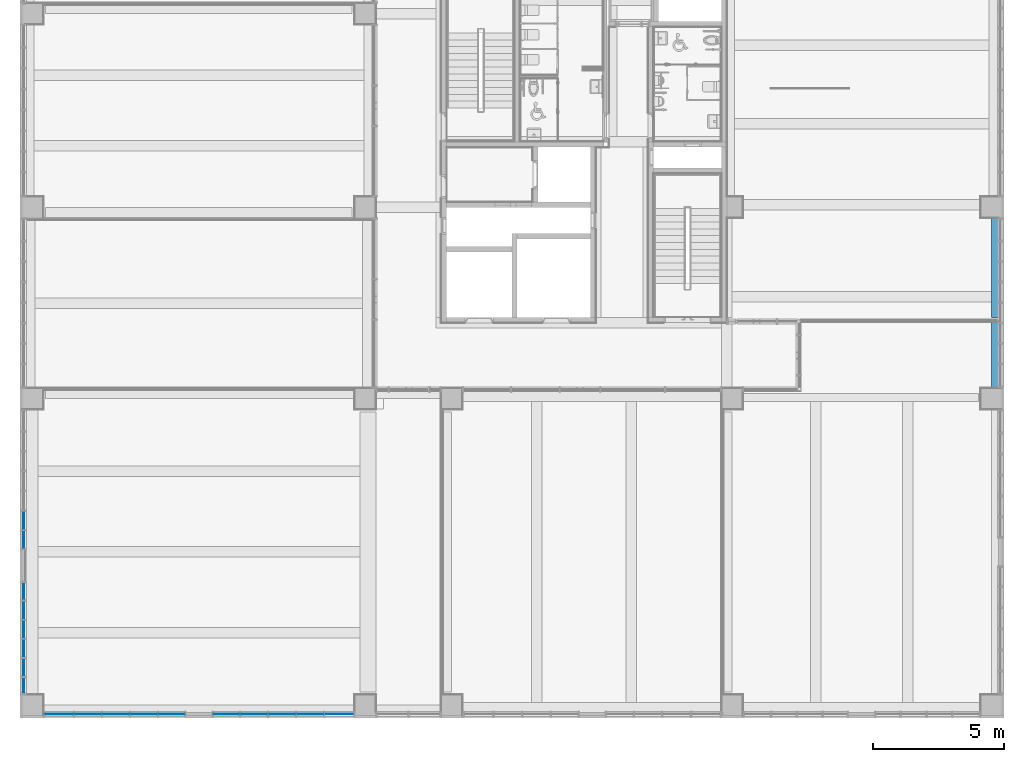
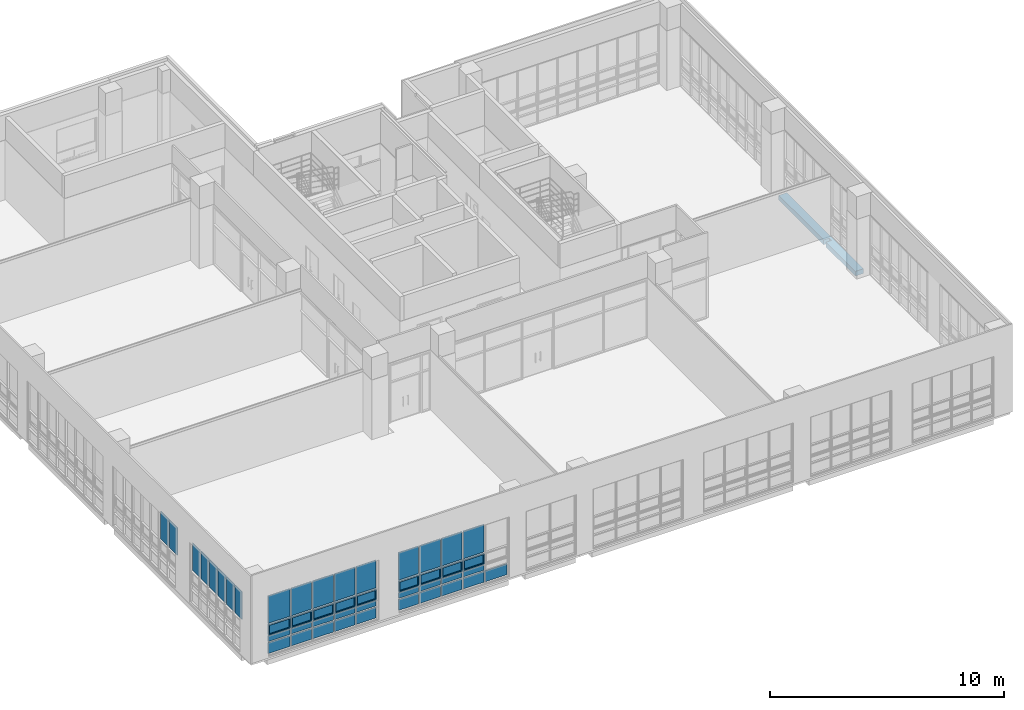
# One storey, part 30 of 74: 45 plates, 1 beam, 4 elements without a shape of their own.
"""IFC2X3 building model written with IfcOpenShell, lengths in millimetres."""

from ifc_helpers import new_model, entity, si_unit, converted_unit, derived_unit, direction, frame, origin, origin_2d_with_axis, place, context, subcontext, project, spatial, polyline, rectangle, outline, extrude, faceted_brep, source, transform, mapped, material, material_list, type_object, type_shapes, element, aggregate, save


model = new_model("IFC2X3")

# Units and contexts
model_context = context("Model", 3, precision=0.01, world=origin(), true_north=direction((6.123031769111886e-17, 1.0)))
body_context = subcontext(model_context, "Body", "Model", "MODEL_VIEW")
ifc_project = project(units=[si_unit("LENGTHUNIT", "METRE", prefix="MILLI"), si_unit("AREAUNIT", "SQUARE_METRE"), si_unit("VOLUMEUNIT", "CUBIC_METRE"), converted_unit("PLANEANGLEUNIT", "DEGREE", entity("IfcRatioMeasure", 0.017453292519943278), si_unit("PLANEANGLEUNIT", "RADIAN"), dimensions=[0, 0, 0, 0, 0, 0, 0]), si_unit("MASSUNIT", "GRAM", prefix="KILO"), derived_unit("MASSDENSITYUNIT", [(si_unit("MASSUNIT", "GRAM", prefix="KILO"), 1), (si_unit("LENGTHUNIT", "METRE"), -3)]), derived_unit("MOMENTOFINERTIAUNIT", [(si_unit("LENGTHUNIT", "METRE"), 4)]), si_unit("TIMEUNIT", "SECOND"), si_unit("FREQUENCYUNIT", "HERTZ"), si_unit("THERMODYNAMICTEMPERATUREUNIT", "DEGREE_CELSIUS"), derived_unit("THERMALTRANSMITTANCEUNIT", [(si_unit("MASSUNIT", "GRAM", prefix="KILO"), 1), (si_unit("THERMODYNAMICTEMPERATUREUNIT", "KELVIN"), -1), (si_unit("TIMEUNIT", "SECOND"), -3)]), derived_unit("VOLUMETRICFLOWRATEUNIT", [(si_unit("LENGTHUNIT", "METRE"), 3), (si_unit("TIMEUNIT", "SECOND"), -1)]), derived_unit("MASSFLOWRATEUNIT", [(si_unit("MASSUNIT", "GRAM", prefix="KILO"), 1), (si_unit("TIMEUNIT", "SECOND"), -1)]), derived_unit("ROTATIONALFREQUENCYUNIT", [(si_unit("TIMEUNIT", "SECOND"), -1)]), si_unit("ELECTRICCURRENTUNIT", "AMPERE"), si_unit("ELECTRICVOLTAGEUNIT", "VOLT"), si_unit("POWERUNIT", "WATT"), si_unit("FORCEUNIT", "NEWTON", prefix="KILO"), si_unit("ILLUMINANCEUNIT", "LUX"), si_unit("LUMINOUSFLUXUNIT", "LUMEN"), si_unit("LUMINOUSINTENSITYUNIT", "CANDELA"), derived_unit("USERDEFINED", [(si_unit("MASSUNIT", "GRAM", prefix="KILO"), -1), (si_unit("LENGTHUNIT", "METRE"), -2), (si_unit("TIMEUNIT", "SECOND"), 3), (si_unit("LUMINOUSFLUXUNIT", "LUMEN"), 1)]), derived_unit("SOUNDPOWERUNIT", [(si_unit("MASSUNIT", "GRAM", prefix="KILO"), 1), (si_unit("LENGTHUNIT", "METRE"), 2), (si_unit("TIMEUNIT", "SECOND"), -3)]), derived_unit("SOUNDPRESSUREUNIT", [(si_unit("MASSUNIT", "GRAM", prefix="KILO"), 1), (si_unit("LENGTHUNIT", "METRE"), -1), (si_unit("TIMEUNIT", "SECOND"), -2)]), derived_unit("LINEARVELOCITYUNIT", [(si_unit("LENGTHUNIT", "METRE"), 1), (si_unit("TIMEUNIT", "SECOND"), -1)]), si_unit("PRESSUREUNIT", "PASCAL"), derived_unit("USERDEFINED", [(si_unit("LENGTHUNIT", "METRE"), -2), (si_unit("MASSUNIT", "GRAM", prefix="KILO"), 1), (si_unit("TIMEUNIT", "SECOND"), -2)]), derived_unit("LINEARFORCEUNIT", [(si_unit("MASSUNIT", "GRAM", prefix="KILO"), 1), (si_unit("LENGTHUNIT", "METRE"), 1), (si_unit("TIMEUNIT", "SECOND"), -2), (si_unit("LENGTHUNIT", "METRE"), -1)]), derived_unit("PLANARFORCEUNIT", [(si_unit("MASSUNIT", "GRAM", prefix="KILO"), 1), (si_unit("LENGTHUNIT", "METRE"), 1), (si_unit("TIMEUNIT", "SECOND"), -2), (si_unit("LENGTHUNIT", "METRE"), -2)])], contexts=[model_context])

# Site, building, storey
site_placement = place(None, frame((-14167.972527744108, -657.2125860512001, 0.0)))
site = spatial("IfcSite", under=ifc_project, at=site_placement, Name="Default", CompositionType="ELEMENT")
building_placement = place(site_placement, origin())
building = spatial("IfcBuilding", under=site, at=building_placement, Name="Sample Building", CompositionType="ELEMENT")
storey_placement = place(building_placement, frame((0.0, 0.0, 4800.0)))
storey = spatial("IfcBuildingStorey", under=building, at=storey_placement, Name="지상 2층", CompositionType="ELEMENT", Elevation=4800.000000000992)

# Beam
ifc_material_1 = material(Name="KBIMS-콘크리트")
beam_type = type_object("IfcBeamType", Name="BM111-철근콘크리트구조 보:BM110-철근 콘크리트구조 보_400 x 400_2-10G4", PredefinedType="BEAM", material=ifc_material_1)
beam_placement = place(storey_placement, frame((51067.955221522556, 13057.213038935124, -400.0), z_axis=(0.0, 0.0, 1.0), x_axis=(0.0, 1.0, 0.0)))
element("IfcBeam", 1, at=beam_placement, inside=storey, type_object=beam_type, material=ifc_material_1, Name="BM111-철근콘크리트구조 보:BM110-철근 콘크리트구조 보_400 x 400_2-10G4", ObjectType="BM111-철근콘크리트구조 보:BM110-철근 콘크리트구조 보_400 x 400_2-10G4", context=body_context, shape_type="Brep", body=[
    faceted_brep([(0.0, -400.0, 0.0), (6537.499269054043, -400.0, 0.0), (6537.499269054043, -400.0, 250.0), (0.0, -400.0, 250.0), (0.0, 0.0, 0.0), (2499.999256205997, 0.0, 0.0), (2499.9992562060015, -275.00857662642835, 0.0), (2699.9992562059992, -275.00857662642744, 0.0), (2699.999256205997, 0.0, 0.0), (3299.9994136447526, 0.0, 0.0), (3699.999413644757, 0.0, 0.0), (6537.49926905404, 0.0, 0.0), (6537.49926905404, 0.0, 250.0), (2699.999256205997, 0.0, 250.0), (3299.9994136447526, 0.0, 250.0), (3699.999413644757, 0.0, 250.0), (0.0, 0.0, 250.0), (2699.9992562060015, -275.00857662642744, 250.0), (2499.9992562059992, -275.00857662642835, 250.0), (2499.999256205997, 0.0, 250.0)], [[[0, 1, 2, 3]], [[0, 4, 5, 6, 7, 8, 9, 10, 11, 1]], [[12, 11, 10, 9, 8, 13, 14, 15]], [[4, 0, 3, 16]], [[1, 11, 12, 2]], [[3, 2, 12, 15, 14, 13, 17, 18, 19, 16]], [[18, 6, 5, 19]], [[7, 17, 13, 8]], [[4, 16, 19, 5]], [[6, 18, 17, 7]]]),
])

# Curtain wall, plates
curtain_wall_type = type_object("IfcCurtainWallType", Name="커튼월:CW112-스테인리스 스틸 커튼월", PredefinedType="NOTDEFINED")
curtain_wall_1_placement = place(storey_placement, frame((0.0, 0.0, -4800.0)))
curtain_wall_1 = element("IfcCurtainWall", 2, at=curtain_wall_1_placement, inside=storey, type_object=curtain_wall_type, Name="커튼월:CW112-스테인리스 스틸 커튼월", ObjectType="커튼월:CW112-스테인리스 스틸 커튼월")
ifc_material_2 = material(Name="KBIMS-로이유리(코팅)")
plate_type_1 = type_object("IfcPlateType", Name="CW300-THK24.Low-e coating glass:CW300-THK24.Low-e coating glass", PredefinedType="CURTAIN_PANEL", material=ifc_material_2)
shared_shape_1 = source(origin(), body_context, "Body", "SweptSolid", [
    extrude(rectangle(XDim=703.5714285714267, YDim=24.000000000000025, at=origin_2d_with_axis()), frame((0.0, 0.0, 0.0), z_axis=(0.0, 0.0, 1.0), x_axis=(-1.0, 0.0, 0.0)), (0.0, 0.0, 1.0), 1445.0000000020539),
])
type_shapes(plate_type_1, [shared_shape_1])
plate_1_placement = place(curtain_wall_1_placement, frame((14130.472570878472, 8012.569418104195, 6505.0), z_axis=(0.0, 0.0, 1.0), x_axis=(0.0, -1.0, 0.0)))
plate_1 = element("IfcPlate", 3, at=plate_1_placement, type_object=plate_type_1, material=ifc_material_2, Name="CW300-THK24.Low-e coating glass:CW300-THK24.Low-e coating glass", ObjectType="CW300-THK24.Low-e coating glass:CW300-THK24.Low-e coating glass", context=body_context, shape_type="MappedRepresentation", body=[
    mapped(shared_shape_1, transform((0.0, 0.0, 0.0), scale=1.0)),
])
plate_type_2 = type_object("IfcPlateType", Name="CW300-THK24.Low-e coating glass:CW300-THK24.Low-e coating glass", PredefinedType="CURTAIN_PANEL", material=ifc_material_2)
shared_shape_2 = source(origin(), body_context, "Body", "SweptSolid", [
    extrude(rectangle(XDim=678.5714285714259, YDim=24.000000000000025, at=origin_2d_with_axis()), frame((0.0, 0.0, 0.0), z_axis=(0.0, 0.0, 1.0), x_axis=(-1.0, 0.0, 0.0)), (0.0, 0.0, 1.0), 1445.0000000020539),
])
type_shapes(plate_type_2, [shared_shape_2])
plate_2_placement = place(curtain_wall_1_placement, frame((14130.47257087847, 7271.497989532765, 6505.0), z_axis=(0.0, 0.0, 1.0), x_axis=(0.0, -1.0, 0.0)))
plate_2 = element("IfcPlate", 4, at=plate_2_placement, type_object=plate_type_2, material=ifc_material_2, Name="CW300-THK24.Low-e coating glass:CW300-THK24.Low-e coating glass", ObjectType="CW300-THK24.Low-e coating glass:CW300-THK24.Low-e coating glass", context=body_context, shape_type="MappedRepresentation", body=[
    mapped(shared_shape_2, transform((0.0, 0.0, 0.0), scale=1.0)),
])
aggregate(curtain_wall_1, [plate_1, plate_2])

curtain_wall_2_placement = place(storey_placement, frame((0.0, 0.0, -4800.0)))
curtain_wall_2 = element("IfcCurtainWall", 5, at=curtain_wall_2_placement, inside=storey, type_object=curtain_wall_type, Name="커튼월:CW112-스테인리스 스틸 커튼월", ObjectType="커튼월:CW112-스테인리스 스틸 커튼월")
plate_type_3 = type_object("IfcPlateType", Name="CW300-THK24.Low-e coating glass:CW300-THK24.Low-e coating glass", PredefinedType="CURTAIN_PANEL", material=ifc_material_2)
shared_shape_3 = source(origin(), body_context, "Body", "SweptSolid", [
    extrude(rectangle(XDim=24.000000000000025, YDim=654.1666666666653, at=origin_2d_with_axis()), frame((0.0, 0.0, 0.0), z_axis=(0.0, 0.0, 1.0), x_axis=(0.0, 1.0, 0.0)), (0.0, 0.0, 1.0), 1445.0000000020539),
])
type_shapes(plate_type_3, [shared_shape_3])
plate_3_placement = place(curtain_wall_2_placement, frame((14129.839654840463, 5302.39133094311, 6505.0), z_axis=(0.0, 0.0, 1.0), x_axis=(0.0, -1.0, 0.0)))
plate_3 = element("IfcPlate", 6, at=plate_3_placement, type_object=plate_type_3, material=ifc_material_2, Name="CW300-THK24.Low-e coating glass:CW300-THK24.Low-e coating glass", ObjectType="CW300-THK24.Low-e coating glass:CW300-THK24.Low-e coating glass", context=body_context, shape_type="MappedRepresentation", body=[
    mapped(shared_shape_3, transform((0.0, 0.0, 0.0), scale=1.0)),
])
plate_type_4 = type_object("IfcPlateType", Name="CW300-THK24.Low-e coating glass:CW300-THK24.Low-e coating glass", PredefinedType="CURTAIN_PANEL", material=ifc_material_2)
shared_shape_4 = source(origin(), body_context, "Body", "SweptSolid", [
    extrude(rectangle(XDim=24.000000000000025, YDim=679.1666666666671, at=origin_2d_with_axis()), frame((0.0, 0.0, 0.0), z_axis=(0.0, 0.0, 1.0), x_axis=(0.0, 1.0, 0.0)), (0.0, 0.0, 1.0), 1445.0000000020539),
])
type_shapes(plate_type_4, [shared_shape_4])
plate_4_placement = place(curtain_wall_2_placement, frame((14129.839654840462, 4585.724664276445, 6505.0), z_axis=(0.0, 0.0, 1.0), x_axis=(0.0, -1.0, 0.0)))
plate_4 = element("IfcPlate", 7, at=plate_4_placement, type_object=plate_type_4, material=ifc_material_2, Name="CW300-THK24.Low-e coating glass:CW300-THK24.Low-e coating glass", ObjectType="CW300-THK24.Low-e coating glass:CW300-THK24.Low-e coating glass", context=body_context, shape_type="MappedRepresentation", body=[
    mapped(shared_shape_4, transform((0.0, 0.0, 0.0), scale=1.0)),
])
plate_5_placement = place(curtain_wall_2_placement, frame((14129.839654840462, 3856.5579976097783, 6505.0), z_axis=(0.0, 0.0, 1.0), x_axis=(0.0, -1.0, 0.0)))
plate_5 = element("IfcPlate", 8, at=plate_5_placement, type_object=plate_type_4, material=ifc_material_2, Name="CW300-THK24.Low-e coating glass:CW300-THK24.Low-e coating glass", ObjectType="CW300-THK24.Low-e coating glass:CW300-THK24.Low-e coating glass", context=body_context, shape_type="MappedRepresentation", body=[
    mapped(shared_shape_4, transform((0.0, 0.0, 0.0), scale=1.0)),
])
plate_6_placement = place(curtain_wall_2_placement, frame((14129.83965484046, 3127.391330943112, 6505.0), z_axis=(0.0, 0.0, 1.0), x_axis=(0.0, -1.0, 0.0)))
plate_6 = element("IfcPlate", 9, at=plate_6_placement, type_object=plate_type_4, material=ifc_material_2, Name="CW300-THK24.Low-e coating glass:CW300-THK24.Low-e coating glass", ObjectType="CW300-THK24.Low-e coating glass:CW300-THK24.Low-e coating glass", context=body_context, shape_type="MappedRepresentation", body=[
    mapped(shared_shape_4, transform((0.0, 0.0, 0.0), scale=1.0)),
])
plate_7_placement = place(curtain_wall_2_placement, frame((14129.83965484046, 2398.224664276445, 6505.0), z_axis=(0.0, 0.0, 1.0), x_axis=(0.0, -1.0, 0.0)))
plate_7 = element("IfcPlate", 10, at=plate_7_placement, type_object=plate_type_4, material=ifc_material_2, Name="CW300-THK24.Low-e coating glass:CW300-THK24.Low-e coating glass", ObjectType="CW300-THK24.Low-e coating glass:CW300-THK24.Low-e coating glass", context=body_context, shape_type="MappedRepresentation", body=[
    mapped(shared_shape_4, transform((0.0, 0.0, 0.0), scale=1.0)),
])
plate_type_5 = type_object("IfcPlateType", Name="CW300-THK24.Low-e coating glass:CW300-THK24.Low-e coating glass", PredefinedType="CURTAIN_PANEL", material=ifc_material_2)
shared_shape_5 = source(origin(), body_context, "Body", "SweptSolid", [
    extrude(rectangle(XDim=24.000000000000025, YDim=601.913033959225, at=origin_2d_with_axis()), frame((0.0, 0.0, 0.0), z_axis=(0.0, 0.0, 1.0), x_axis=(0.0, 1.0, 0.0)), (0.0, 0.0, 1.0), 1445.0000000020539),
])
type_shapes(plate_type_5, [shared_shape_5])
plate_8_placement = place(curtain_wall_2_placement, frame((14129.839654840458, 1707.6848139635, 6505.0), z_axis=(0.0, 0.0, 1.0), x_axis=(0.0, -1.0, 0.0)))
plate_8 = element("IfcPlate", 11, at=plate_8_placement, type_object=plate_type_5, material=ifc_material_2, Name="CW300-THK24.Low-e coating glass:CW300-THK24.Low-e coating glass", ObjectType="CW300-THK24.Low-e coating glass:CW300-THK24.Low-e coating glass", context=body_context, shape_type="MappedRepresentation", body=[
    mapped(shared_shape_5, transform((0.0, 0.0, 0.0), scale=1.0)),
])
aggregate(curtain_wall_2, [plate_3, plate_4, plate_5, plate_6, plate_7, plate_8])

curtain_wall_3_placement = place(storey_placement, frame((0.0, 0.0, -4800.0)))
curtain_wall_3 = element("IfcCurtainWall", 12, at=curtain_wall_3_placement, inside=storey, type_object=curtain_wall_type, Name="커튼월:CW112-스테인리스 스틸 커튼월", ObjectType="커튼월:CW112-스테인리스 스틸 커튼월")
plate_type_6 = type_object("IfcPlateType", Name="CW300-THK24.Low-e coating glass:CW300-THK24.Low-e coating glass", PredefinedType="CURTAIN_PANEL", material=ifc_material_2)
shared_shape_6 = source(origin(), body_context, "Body", "SweptSolid", [
    extrude(rectangle(XDim=1077.0260314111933, YDim=24.000000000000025, at=origin_2d_with_axis()), frame((0.0, 0.0, 0.0), z_axis=(0.0, 0.0, 1.0), x_axis=(-1.0, 0.0, 0.0)), (0.0, 0.0, 1.0), 575.0000000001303),
])
type_shapes(plate_type_6, [shared_shape_6])
plate_9_placement = place(curtain_wall_3_placement, frame((15474.485470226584, 619.7122951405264, 4930.0)))
plate_9 = element("IfcPlate", 13, at=plate_9_placement, type_object=plate_type_6, material=ifc_material_2, Name="CW300-THK24.Low-e coating glass:CW300-THK24.Low-e coating glass", ObjectType="CW300-THK24.Low-e coating glass:CW300-THK24.Low-e coating glass", context=body_context, shape_type="MappedRepresentation", body=[
    mapped(shared_shape_6, transform((0.0, 0.0, 0.0), scale=1.0)),
])
plate_type_7 = type_object("IfcPlateType", Name="CW300-THK24.Low-e coating glass:CW300-THK24.Low-e coating glass", PredefinedType="CURTAIN_PANEL", material=ifc_material_2)
shared_shape_7 = source(origin(), body_context, "Body", "SweptSolid", [
    extrude(rectangle(XDim=1019.9999999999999, YDim=24.000000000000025, at=origin_2d_with_axis()), frame((0.0, 0.0, 0.0), z_axis=(0.0, 0.0, 1.0), x_axis=(-1.0, 0.0, 0.0)), (0.0, 0.0, 1.0), 575.0000000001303),
])
type_shapes(plate_type_7, [shared_shape_7])
plate_10_placement = place(curtain_wall_3_placement, frame((16572.998485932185, 619.7122951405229, 4930.0)))
plate_10 = element("IfcPlate", 14, at=plate_10_placement, type_object=plate_type_7, material=ifc_material_2, Name="CW300-THK24.Low-e coating glass:CW300-THK24.Low-e coating glass", ObjectType="CW300-THK24.Low-e coating glass:CW300-THK24.Low-e coating glass", context=body_context, shape_type="MappedRepresentation", body=[
    mapped(shared_shape_7, transform((0.0, 0.0, 0.0), scale=1.0)),
])
plate_11_placement = place(curtain_wall_3_placement, frame((17642.99848593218, 619.7122951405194, 4930.0)))
plate_11 = element("IfcPlate", 15, at=plate_11_placement, type_object=plate_type_7, material=ifc_material_2, Name="CW300-THK24.Low-e coating glass:CW300-THK24.Low-e coating glass", ObjectType="CW300-THK24.Low-e coating glass:CW300-THK24.Low-e coating glass", context=body_context, shape_type="MappedRepresentation", body=[
    mapped(shared_shape_7, transform((0.0, 0.0, 0.0), scale=1.0)),
])
plate_12_placement = place(curtain_wall_3_placement, frame((18712.99848593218, 619.712295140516, 4930.0)))
plate_12 = element("IfcPlate", 16, at=plate_12_placement, type_object=plate_type_7, material=ifc_material_2, Name="CW300-THK24.Low-e coating glass:CW300-THK24.Low-e coating glass", ObjectType="CW300-THK24.Low-e coating glass:CW300-THK24.Low-e coating glass", context=body_context, shape_type="MappedRepresentation", body=[
    mapped(shared_shape_7, transform((0.0, 0.0, 0.0), scale=1.0)),
])

curtain_wall_4_placement = place(storey_placement, frame((0.0, 0.0, -4800.0)))
curtain_wall_4 = element("IfcCurtainWall", 17, at=curtain_wall_4_placement, inside=storey, type_object=curtain_wall_type, Name="커튼월:CW112-스테인리스 스틸 커튼월", ObjectType="커튼월:CW112-스테인리스 스틸 커튼월")
plate_13_placement = place(curtain_wall_4_placement, frame((22922.857532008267, 619.7122951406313, 4930.0)))
plate_13 = element("IfcPlate", 18, at=plate_13_placement, type_object=plate_type_7, material=ifc_material_2, Name="CW300-THK24.Low-e coating glass:CW300-THK24.Low-e coating glass", ObjectType="CW300-THK24.Low-e coating glass:CW300-THK24.Low-e coating glass", context=body_context, shape_type="MappedRepresentation", body=[
    mapped(shared_shape_7, transform((0.0, 0.0, 0.0), scale=1.0)),
])
plate_14_placement = place(curtain_wall_4_placement, frame((23992.857532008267, 619.7122951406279, 4930.0)))
plate_14 = element("IfcPlate", 19, at=plate_14_placement, type_object=plate_type_7, material=ifc_material_2, Name="CW300-THK24.Low-e coating glass:CW300-THK24.Low-e coating glass", ObjectType="CW300-THK24.Low-e coating glass:CW300-THK24.Low-e coating glass", context=body_context, shape_type="MappedRepresentation", body=[
    mapped(shared_shape_7, transform((0.0, 0.0, 0.0), scale=1.0)),
])
plate_15_placement = place(curtain_wall_4_placement, frame((25062.85753200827, 619.7122951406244, 4930.0)))
plate_15 = element("IfcPlate", 20, at=plate_15_placement, type_object=plate_type_7, material=ifc_material_2, Name="CW300-THK24.Low-e coating glass:CW300-THK24.Low-e coating glass", ObjectType="CW300-THK24.Low-e coating glass:CW300-THK24.Low-e coating glass", context=body_context, shape_type="MappedRepresentation", body=[
    mapped(shared_shape_7, transform((0.0, 0.0, 0.0), scale=1.0)),
])

# Plate
plate_type_8 = type_object("IfcPlateType", Name="CW300-THK24.Low-e coating glass:CW300-THK24.Low-e coating glass", PredefinedType="CURTAIN_PANEL", material=ifc_material_2)
shared_shape_8 = source(origin(), body_context, "Body", "SweptSolid", [
    extrude(rectangle(XDim=995.0000000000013, YDim=24.000000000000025, at=origin_2d_with_axis()), frame((0.0, 0.0, 0.0), z_axis=(0.0, 0.0, 1.0), x_axis=(-1.0, 0.0, 0.0)), (0.0, 0.0, 1.0), 575.0000000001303),
])
type_shapes(plate_type_8, [shared_shape_8])
plate_16_placement = place(curtain_wall_3_placement, frame((19770.49848593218, 619.7122951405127, 4930.0)))
plate_16 = element("IfcPlate", 21, at=plate_16_placement, type_object=plate_type_8, material=ifc_material_2, Name="CW300-THK24.Low-e coating glass:CW300-THK24.Low-e coating glass", ObjectType="CW300-THK24.Low-e coating glass:CW300-THK24.Low-e coating glass", context=body_context, shape_type="MappedRepresentation", body=[
    mapped(shared_shape_8, transform((0.0, 0.0, 0.0), scale=1.0)),
])

plate_17_placement = place(curtain_wall_4_placement, frame((21865.35753200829, 619.7122951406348, 4930.0)))
plate_17 = element("IfcPlate", 22, at=plate_17_placement, type_object=plate_type_8, material=ifc_material_2, Name="CW300-THK24.Low-e coating glass:CW300-THK24.Low-e coating glass", ObjectType="CW300-THK24.Low-e coating glass:CW300-THK24.Low-e coating glass", context=body_context, shape_type="MappedRepresentation", body=[
    mapped(shared_shape_8, transform((0.0, 0.0, 0.0), scale=1.0)),
])

plate_type_9 = type_object("IfcPlateType", Name="CW300-THK24.Low-e coating glass:CW300-THK24.Low-e coating glass", PredefinedType="CURTAIN_PANEL", material=ifc_material_2)
shared_shape_9 = source(origin(), body_context, "Body", "SweptSolid", [
    extrude(rectangle(XDim=1077.0260314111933, YDim=24.000000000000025, at=origin_2d_with_axis()), frame((0.0, 0.0, 0.0), z_axis=(0.0, 0.0, 1.0), x_axis=(-1.0, 0.0, 0.0)), (0.0, 0.0, 1.0), 300.0000000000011),
])
type_shapes(plate_type_9, [shared_shape_9])
plate_18_placement = place(curtain_wall_3_placement, frame((15474.485470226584, 619.7122951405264, 5555.0)))
plate_18 = element("IfcPlate", 23, at=plate_18_placement, type_object=plate_type_9, material=ifc_material_2, Name="CW300-THK24.Low-e coating glass:CW300-THK24.Low-e coating glass", ObjectType="CW300-THK24.Low-e coating glass:CW300-THK24.Low-e coating glass", context=body_context, shape_type="MappedRepresentation", body=[
    mapped(shared_shape_9, transform((0.0, 0.0, 0.0), scale=1.0)),
])

plate_type_10 = type_object("IfcPlateType", Name="CW300-THK24.Low-e coating glass:CW300-THK24.Low-e coating glass", PredefinedType="CURTAIN_PANEL", material=ifc_material_2)
shared_shape_10 = source(origin(), body_context, "Body", "SweptSolid", [
    extrude(rectangle(XDim=1019.9999999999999, YDim=24.000000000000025, at=origin_2d_with_axis()), frame((0.0, 0.0, 0.0), z_axis=(0.0, 0.0, 1.0), x_axis=(-1.0, 0.0, 0.0)), (0.0, 0.0, 1.0), 300.0000000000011),
])
type_shapes(plate_type_10, [shared_shape_10])
plate_19_placement = place(curtain_wall_3_placement, frame((16572.998485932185, 619.7122951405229, 5555.0)))
plate_19 = element("IfcPlate", 24, at=plate_19_placement, type_object=plate_type_10, material=ifc_material_2, Name="CW300-THK24.Low-e coating glass:CW300-THK24.Low-e coating glass", ObjectType="CW300-THK24.Low-e coating glass:CW300-THK24.Low-e coating glass", context=body_context, shape_type="MappedRepresentation", body=[
    mapped(shared_shape_10, transform((0.0, 0.0, 0.0), scale=1.0)),
])

plate_20_placement = place(curtain_wall_3_placement, frame((17642.99848593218, 619.7122951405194, 5555.0)))
plate_20 = element("IfcPlate", 25, at=plate_20_placement, type_object=plate_type_10, material=ifc_material_2, Name="CW300-THK24.Low-e coating glass:CW300-THK24.Low-e coating glass", ObjectType="CW300-THK24.Low-e coating glass:CW300-THK24.Low-e coating glass", context=body_context, shape_type="MappedRepresentation", body=[
    mapped(shared_shape_10, transform((0.0, 0.0, 0.0), scale=1.0)),
])

plate_21_placement = place(curtain_wall_3_placement, frame((18712.99848593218, 619.712295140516, 5555.0)))
plate_21 = element("IfcPlate", 26, at=plate_21_placement, type_object=plate_type_10, material=ifc_material_2, Name="CW300-THK24.Low-e coating glass:CW300-THK24.Low-e coating glass", ObjectType="CW300-THK24.Low-e coating glass:CW300-THK24.Low-e coating glass", context=body_context, shape_type="MappedRepresentation", body=[
    mapped(shared_shape_10, transform((0.0, 0.0, 0.0), scale=1.0)),
])

plate_22_placement = place(curtain_wall_4_placement, frame((22922.857532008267, 619.7122951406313, 5555.0)))
plate_22 = element("IfcPlate", 27, at=plate_22_placement, type_object=plate_type_10, material=ifc_material_2, Name="CW300-THK24.Low-e coating glass:CW300-THK24.Low-e coating glass", ObjectType="CW300-THK24.Low-e coating glass:CW300-THK24.Low-e coating glass", context=body_context, shape_type="MappedRepresentation", body=[
    mapped(shared_shape_10, transform((0.0, 0.0, 0.0), scale=1.0)),
])

plate_23_placement = place(curtain_wall_4_placement, frame((23992.857532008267, 619.7122951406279, 5555.0)))
plate_23 = element("IfcPlate", 28, at=plate_23_placement, type_object=plate_type_10, material=ifc_material_2, Name="CW300-THK24.Low-e coating glass:CW300-THK24.Low-e coating glass", ObjectType="CW300-THK24.Low-e coating glass:CW300-THK24.Low-e coating glass", context=body_context, shape_type="MappedRepresentation", body=[
    mapped(shared_shape_10, transform((0.0, 0.0, 0.0), scale=1.0)),
])

plate_24_placement = place(curtain_wall_4_placement, frame((25062.85753200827, 619.7122951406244, 5555.0)))
plate_24 = element("IfcPlate", 29, at=plate_24_placement, type_object=plate_type_10, material=ifc_material_2, Name="CW300-THK24.Low-e coating glass:CW300-THK24.Low-e coating glass", ObjectType="CW300-THK24.Low-e coating glass:CW300-THK24.Low-e coating glass", context=body_context, shape_type="MappedRepresentation", body=[
    mapped(shared_shape_10, transform((0.0, 0.0, 0.0), scale=1.0)),
])

plate_type_11 = type_object("IfcPlateType", Name="CW300-THK24.Low-e coating glass:CW300-THK24.Low-e coating glass", PredefinedType="CURTAIN_PANEL", material=ifc_material_2)
shared_shape_11 = source(origin(), body_context, "Body", "SweptSolid", [
    extrude(rectangle(XDim=995.0000000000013, YDim=24.000000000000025, at=origin_2d_with_axis()), frame((0.0, 0.0, 0.0), z_axis=(0.0, 0.0, 1.0), x_axis=(-1.0, 0.0, 0.0)), (0.0, 0.0, 1.0), 300.0000000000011),
])
type_shapes(plate_type_11, [shared_shape_11])
plate_25_placement = place(curtain_wall_3_placement, frame((19770.49848593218, 619.7122951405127, 5555.0)))
plate_25 = element("IfcPlate", 30, at=plate_25_placement, type_object=plate_type_11, material=ifc_material_2, Name="CW300-THK24.Low-e coating glass:CW300-THK24.Low-e coating glass", ObjectType="CW300-THK24.Low-e coating glass:CW300-THK24.Low-e coating glass", context=body_context, shape_type="MappedRepresentation", body=[
    mapped(shared_shape_11, transform((0.0, 0.0, 0.0), scale=1.0)),
])

plate_26_placement = place(curtain_wall_4_placement, frame((21865.35753200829, 619.7122951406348, 5555.0)))
plate_26 = element("IfcPlate", 31, at=plate_26_placement, type_object=plate_type_11, material=ifc_material_2, Name="CW300-THK24.Low-e coating glass:CW300-THK24.Low-e coating glass", ObjectType="CW300-THK24.Low-e coating glass:CW300-THK24.Low-e coating glass", context=body_context, shape_type="MappedRepresentation", body=[
    mapped(shared_shape_11, transform((0.0, 0.0, 0.0), scale=1.0)),
])

ifc_material_3 = material(Name="KBIMS-유리")
ifc_material_4 = material(Name="KBIMS-알루미늄")
ifc_material_list_1 = material_list([ifc_material_3, ifc_material_4])
ifc_material_list_2 = material_list([ifc_material_3, ifc_material_4])
plate_type_12 = type_object("IfcPlateType", Name="CW410-프로젝트 창:CW410-프로젝트 창 (하부개폐)", PredefinedType="CURTAIN_PANEL", material=ifc_material_list_2)
shared_shape_12 = source(origin(), body_context, "Body", "SweptSolid", [
    extrude(rectangle(XDim=977.026031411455, YDim=23.999999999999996, at=origin_2d_with_axis()), frame((0.0, -0.04999999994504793, 50.0), z_axis=(0.0, 0.0, 1.0), x_axis=(-1.0, 0.0, 0.0)), (0.0, 0.0, 1.0), 450.0000000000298),
    extrude(outline(polyline([(-538.5130157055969, -275.0), (538.5130157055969, -275.0), (538.5130157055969, 275.0), (-538.5130157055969, 275.0), (-538.5130157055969, -275.0)]), holes=[polyline([(-488.51301570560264, -225.0), (-488.5130157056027, 225.0), (488.51301570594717, 225.0), (488.51301570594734, -225.0), (-488.51301570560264, -225.0)])]), frame((0.0, -50.04999999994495, 275.0), z_axis=(0.0, 1.0, 0.0), x_axis=(1.0, 0.0, 0.0)), (0.0, 0.0, 1.0), 99.99999999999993),
])
type_shapes(plate_type_12, [shared_shape_12])
plate_27_placement = place(curtain_wall_3_placement, frame((15474.485470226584, 619.7122951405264, 5905.0)))
plate_27 = element("IfcPlate", 32, at=plate_27_placement, type_object=plate_type_12, material=ifc_material_list_1, Name="CW410-프로젝트 창:CW410-프로젝트 창 (하부개폐)", ObjectType="CW410-프로젝트 창:CW410-프로젝트 창 (하부개폐)", context=body_context, shape_type="MappedRepresentation", body=[
    mapped(shared_shape_12, transform((0.0, 0.0, 0.0), scale=1.0)),
])

ifc_material_list_3 = material_list([ifc_material_3, ifc_material_4])
ifc_material_list_4 = material_list([ifc_material_3, ifc_material_4])
plate_type_13 = type_object("IfcPlateType", Name="CW410-프로젝트 창:CW410-프로젝트 창 (하부개폐)", PredefinedType="CURTAIN_PANEL", material=ifc_material_list_4)
shared_shape_13 = source(origin(), body_context, "Body", "SweptSolid", [
    extrude(rectangle(XDim=920.0000000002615, YDim=23.999999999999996, at=origin_2d_with_axis()), frame((0.0, -0.04999999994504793, 50.0), z_axis=(0.0, 0.0, 1.0), x_axis=(-1.0, 0.0, 0.0)), (0.0, 0.0, 1.0), 450.0000000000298),
    extrude(outline(polyline([(-510.0, -275.0), (510.0, -275.0), (510.0, 275.0), (-510.0, 275.0), (-510.0, -275.0)]), holes=[polyline([(-460.0, -225.0), (-460.0, 225.0), (460.0, 225.0), (460.0, -225.0), (-460.0, -225.0)])]), frame((0.0, -50.04999999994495, 275.0), z_axis=(0.0, 1.0, 0.0), x_axis=(1.0, 0.0, 0.0)), (0.0, 0.0, 1.0), 99.99999999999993),
])
type_shapes(plate_type_13, [shared_shape_13])
plate_28_placement = place(curtain_wall_3_placement, frame((16572.998485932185, 619.7122951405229, 5905.0)))
plate_28 = element("IfcPlate", 33, at=plate_28_placement, type_object=plate_type_13, material=ifc_material_list_3, Name="CW410-프로젝트 창:CW410-프로젝트 창 (하부개폐)", ObjectType="CW410-프로젝트 창:CW410-프로젝트 창 (하부개폐)", context=body_context, shape_type="MappedRepresentation", body=[
    mapped(shared_shape_13, transform((0.0, 0.0, 0.0), scale=1.0)),
])

ifc_material_list_5 = material_list([ifc_material_3, ifc_material_4])
plate_29_placement = place(curtain_wall_3_placement, frame((17642.99848593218, 619.7122951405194, 5905.0)))
plate_29 = element("IfcPlate", 34, at=plate_29_placement, type_object=plate_type_13, material=ifc_material_list_5, Name="CW410-프로젝트 창:CW410-프로젝트 창 (하부개폐)", ObjectType="CW410-프로젝트 창:CW410-프로젝트 창 (하부개폐)", context=body_context, shape_type="MappedRepresentation", body=[
    mapped(shared_shape_13, transform((0.0, 0.0, 0.0), scale=1.0)),
])

ifc_material_list_6 = material_list([ifc_material_3, ifc_material_4])
plate_30_placement = place(curtain_wall_3_placement, frame((18712.99848593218, 619.712295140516, 5905.0)))
plate_30 = element("IfcPlate", 35, at=plate_30_placement, type_object=plate_type_13, material=ifc_material_list_6, Name="CW410-프로젝트 창:CW410-프로젝트 창 (하부개폐)", ObjectType="CW410-프로젝트 창:CW410-프로젝트 창 (하부개폐)", context=body_context, shape_type="MappedRepresentation", body=[
    mapped(shared_shape_13, transform((0.0, 0.0, 0.0), scale=1.0)),
])

ifc_material_list_7 = material_list([ifc_material_3, ifc_material_4])
plate_31_placement = place(curtain_wall_4_placement, frame((22922.857532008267, 619.7122951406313, 5905.0)))
plate_31 = element("IfcPlate", 36, at=plate_31_placement, type_object=plate_type_13, material=ifc_material_list_7, Name="CW410-프로젝트 창:CW410-프로젝트 창 (하부개폐)", ObjectType="CW410-프로젝트 창:CW410-프로젝트 창 (하부개폐)", context=body_context, shape_type="MappedRepresentation", body=[
    mapped(shared_shape_13, transform((0.0, 0.0, 0.0), scale=1.0)),
])

ifc_material_list_8 = material_list([ifc_material_3, ifc_material_4])
plate_32_placement = place(curtain_wall_4_placement, frame((23992.857532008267, 619.7122951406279, 5905.0)))
plate_32 = element("IfcPlate", 37, at=plate_32_placement, type_object=plate_type_13, material=ifc_material_list_8, Name="CW410-프로젝트 창:CW410-프로젝트 창 (하부개폐)", ObjectType="CW410-프로젝트 창:CW410-프로젝트 창 (하부개폐)", context=body_context, shape_type="MappedRepresentation", body=[
    mapped(shared_shape_13, transform((0.0, 0.0, 0.0), scale=1.0)),
])

ifc_material_list_9 = material_list([ifc_material_3, ifc_material_4])
plate_33_placement = place(curtain_wall_4_placement, frame((25062.85753200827, 619.7122951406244, 5905.0)))
plate_33 = element("IfcPlate", 38, at=plate_33_placement, type_object=plate_type_13, material=ifc_material_list_9, Name="CW410-프로젝트 창:CW410-프로젝트 창 (하부개폐)", ObjectType="CW410-프로젝트 창:CW410-프로젝트 창 (하부개폐)", context=body_context, shape_type="MappedRepresentation", body=[
    mapped(shared_shape_13, transform((0.0, 0.0, 0.0), scale=1.0)),
])

ifc_material_list_10 = material_list([ifc_material_3, ifc_material_4])
ifc_material_list_11 = material_list([ifc_material_3, ifc_material_4])
plate_type_14 = type_object("IfcPlateType", Name="CW410-프로젝트 창:CW410-프로젝트 창 (하부개폐)", PredefinedType="CURTAIN_PANEL", material=ifc_material_list_11)
shared_shape_14 = source(origin(), body_context, "Body", "SweptSolid", [
    extrude(rectangle(XDim=895.0000000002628, YDim=23.999999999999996, at=origin_2d_with_axis()), frame((0.0, -0.04999999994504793, 50.0), z_axis=(0.0, 0.0, 1.0), x_axis=(-1.0, 0.0, 0.0)), (0.0, 0.0, 1.0), 450.0000000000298),
    extrude(outline(polyline([(-497.5000000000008, -275.0), (497.5000000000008, -275.0), (497.5000000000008, 275.0), (-497.5000000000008, 275.0), (-497.5000000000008, -275.0)]), holes=[polyline([(-447.50000000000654, -225.0), (-447.5000000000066, 225.0), (447.5000000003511, 225.0), (447.50000000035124, -225.0), (-447.50000000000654, -225.0)])]), frame((0.0, -50.04999999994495, 275.0), z_axis=(0.0, 1.0, 0.0), x_axis=(1.0, 0.0, 0.0)), (0.0, 0.0, 1.0), 99.99999999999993),
])
type_shapes(plate_type_14, [shared_shape_14])
plate_34_placement = place(curtain_wall_3_placement, frame((19770.49848593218, 619.7122951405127, 5905.0)))
plate_34 = element("IfcPlate", 39, at=plate_34_placement, type_object=plate_type_14, material=ifc_material_list_10, Name="CW410-프로젝트 창:CW410-프로젝트 창 (하부개폐)", ObjectType="CW410-프로젝트 창:CW410-프로젝트 창 (하부개폐)", context=body_context, shape_type="MappedRepresentation", body=[
    mapped(shared_shape_14, transform((0.0, 0.0, 0.0), scale=1.0)),
])

ifc_material_list_12 = material_list([ifc_material_3, ifc_material_4])
plate_35_placement = place(curtain_wall_4_placement, frame((21865.35753200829, 619.7122951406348, 5905.0)))
plate_35 = element("IfcPlate", 40, at=plate_35_placement, type_object=plate_type_14, material=ifc_material_list_12, Name="CW410-프로젝트 창:CW410-프로젝트 창 (하부개폐)", ObjectType="CW410-프로젝트 창:CW410-프로젝트 창 (하부개폐)", context=body_context, shape_type="MappedRepresentation", body=[
    mapped(shared_shape_14, transform((0.0, 0.0, 0.0), scale=1.0)),
])

plate_type_15 = type_object("IfcPlateType", Name="CW300-THK24.Low-e coating glass:CW300-THK24.Low-e coating glass", PredefinedType="CURTAIN_PANEL", material=ifc_material_2)
shared_shape_15 = source(origin(), body_context, "Body", "SweptSolid", [
    extrude(rectangle(XDim=1077.0260314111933, YDim=24.000000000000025, at=origin_2d_with_axis()), frame((0.0, 0.0, 0.0), z_axis=(0.0, 0.0, 1.0), x_axis=(-1.0, 0.0, 0.0)), (0.0, 0.0, 1.0), 1445.0000000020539),
])
type_shapes(plate_type_15, [shared_shape_15])
plate_36_placement = place(curtain_wall_3_placement, frame((15474.485470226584, 619.7122951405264, 6505.0)))
plate_36 = element("IfcPlate", 41, at=plate_36_placement, type_object=plate_type_15, material=ifc_material_2, Name="CW300-THK24.Low-e coating glass:CW300-THK24.Low-e coating glass", ObjectType="CW300-THK24.Low-e coating glass:CW300-THK24.Low-e coating glass", context=body_context, shape_type="MappedRepresentation", body=[
    mapped(shared_shape_15, transform((0.0, 0.0, 0.0), scale=1.0)),
])

plate_type_16 = type_object("IfcPlateType", Name="CW300-THK24.Low-e coating glass:CW300-THK24.Low-e coating glass", PredefinedType="CURTAIN_PANEL", material=ifc_material_2)
shared_shape_16 = source(origin(), body_context, "Body", "SweptSolid", [
    extrude(rectangle(XDim=1019.9999999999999, YDim=24.000000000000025, at=origin_2d_with_axis()), frame((0.0, 0.0, 0.0), z_axis=(0.0, 0.0, 1.0), x_axis=(-1.0, 0.0, 0.0)), (0.0, 0.0, 1.0), 1445.0000000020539),
])
type_shapes(plate_type_16, [shared_shape_16])
plate_37_placement = place(curtain_wall_3_placement, frame((16572.998485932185, 619.7122951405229, 6505.0)))
plate_37 = element("IfcPlate", 42, at=plate_37_placement, type_object=plate_type_16, material=ifc_material_2, Name="CW300-THK24.Low-e coating glass:CW300-THK24.Low-e coating glass", ObjectType="CW300-THK24.Low-e coating glass:CW300-THK24.Low-e coating glass", context=body_context, shape_type="MappedRepresentation", body=[
    mapped(shared_shape_16, transform((0.0, 0.0, 0.0), scale=1.0)),
])

plate_38_placement = place(curtain_wall_3_placement, frame((17642.99848593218, 619.7122951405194, 6505.0)))
plate_38 = element("IfcPlate", 43, at=plate_38_placement, type_object=plate_type_16, material=ifc_material_2, Name="CW300-THK24.Low-e coating glass:CW300-THK24.Low-e coating glass", ObjectType="CW300-THK24.Low-e coating glass:CW300-THK24.Low-e coating glass", context=body_context, shape_type="MappedRepresentation", body=[
    mapped(shared_shape_16, transform((0.0, 0.0, 0.0), scale=1.0)),
])

plate_39_placement = place(curtain_wall_3_placement, frame((18712.99848593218, 619.712295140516, 6505.0)))
plate_39 = element("IfcPlate", 44, at=plate_39_placement, type_object=plate_type_16, material=ifc_material_2, Name="CW300-THK24.Low-e coating glass:CW300-THK24.Low-e coating glass", ObjectType="CW300-THK24.Low-e coating glass:CW300-THK24.Low-e coating glass", context=body_context, shape_type="MappedRepresentation", body=[
    mapped(shared_shape_16, transform((0.0, 0.0, 0.0), scale=1.0)),
])

plate_40_placement = place(curtain_wall_4_placement, frame((22922.857532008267, 619.7122951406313, 6505.0)))
plate_40 = element("IfcPlate", 45, at=plate_40_placement, type_object=plate_type_16, material=ifc_material_2, Name="CW300-THK24.Low-e coating glass:CW300-THK24.Low-e coating glass", ObjectType="CW300-THK24.Low-e coating glass:CW300-THK24.Low-e coating glass", context=body_context, shape_type="MappedRepresentation", body=[
    mapped(shared_shape_16, transform((0.0, 0.0, 0.0), scale=1.0)),
])

plate_41_placement = place(curtain_wall_4_placement, frame((23992.857532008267, 619.7122951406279, 6505.0)))
plate_41 = element("IfcPlate", 46, at=plate_41_placement, type_object=plate_type_16, material=ifc_material_2, Name="CW300-THK24.Low-e coating glass:CW300-THK24.Low-e coating glass", ObjectType="CW300-THK24.Low-e coating glass:CW300-THK24.Low-e coating glass", context=body_context, shape_type="MappedRepresentation", body=[
    mapped(shared_shape_16, transform((0.0, 0.0, 0.0), scale=1.0)),
])

plate_42_placement = place(curtain_wall_4_placement, frame((25062.85753200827, 619.7122951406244, 6505.0)))
plate_42 = element("IfcPlate", 47, at=plate_42_placement, type_object=plate_type_16, material=ifc_material_2, Name="CW300-THK24.Low-e coating glass:CW300-THK24.Low-e coating glass", ObjectType="CW300-THK24.Low-e coating glass:CW300-THK24.Low-e coating glass", context=body_context, shape_type="MappedRepresentation", body=[
    mapped(shared_shape_16, transform((0.0, 0.0, 0.0), scale=1.0)),
])

plate_type_17 = type_object("IfcPlateType", Name="CW300-THK24.Low-e coating glass:CW300-THK24.Low-e coating glass", PredefinedType="CURTAIN_PANEL", material=ifc_material_2)
shared_shape_17 = source(origin(), body_context, "Body", "SweptSolid", [
    extrude(rectangle(XDim=995.0000000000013, YDim=24.000000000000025, at=origin_2d_with_axis()), frame((0.0, 0.0, 0.0), z_axis=(0.0, 0.0, 1.0), x_axis=(-1.0, 0.0, 0.0)), (0.0, 0.0, 1.0), 1445.0000000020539),
])
type_shapes(plate_type_17, [shared_shape_17])
plate_43_placement = place(curtain_wall_3_placement, frame((19770.49848593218, 619.7122951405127, 6505.0)))
plate_43 = element("IfcPlate", 48, at=plate_43_placement, type_object=plate_type_17, material=ifc_material_2, Name="CW300-THK24.Low-e coating glass:CW300-THK24.Low-e coating glass", ObjectType="CW300-THK24.Low-e coating glass:CW300-THK24.Low-e coating glass", context=body_context, shape_type="MappedRepresentation", body=[
    mapped(shared_shape_17, transform((0.0, 0.0, 0.0), scale=1.0)),
])

aggregate(curtain_wall_3, [plate_9, plate_10, plate_11, plate_12, plate_16, plate_18, plate_19, plate_20, plate_21, plate_25, plate_27, plate_28, plate_29, plate_30, plate_34, plate_36, plate_37, plate_38, plate_39, plate_43])

plate_44_placement = place(curtain_wall_4_placement, frame((21865.35753200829, 619.7122951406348, 6505.0)))
plate_44 = element("IfcPlate", 49, at=plate_44_placement, type_object=plate_type_17, material=ifc_material_2, Name="CW300-THK24.Low-e coating glass:CW300-THK24.Low-e coating glass", ObjectType="CW300-THK24.Low-e coating glass:CW300-THK24.Low-e coating glass", context=body_context, shape_type="MappedRepresentation", body=[
    mapped(shared_shape_17, transform((0.0, 0.0, 0.0), scale=1.0)),
])

plate_type_18 = type_object("IfcPlateType", Name="CW300-THK24.Low-e coating glass:CW300-THK24.Low-e coating glass", PredefinedType="CURTAIN_PANEL", material=ifc_material_2)
shared_shape_18 = source(origin(), body_context, "Body", "SweptSolid", [
    extrude(rectangle(XDim=1095.11495912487, YDim=24.000000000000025, at=origin_2d_with_axis()), frame((0.0, 0.0, 0.0), z_axis=(0.0, 0.0, 1.0), x_axis=(-1.0, 0.0, 0.0)), (0.0, 0.0, 1.0), 575.0000000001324),
])
type_shapes(plate_type_18, [shared_shape_18])
plate_45_placement = place(curtain_wall_4_placement, frame((26170.4150115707, 619.7122951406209, 4930.0)))
plate_45 = element("IfcPlate", 50, at=plate_45_placement, type_object=plate_type_18, material=ifc_material_2, Name="CW300-THK24.Low-e coating glass:CW300-THK24.Low-e coating glass", ObjectType="CW300-THK24.Low-e coating glass:CW300-THK24.Low-e coating glass", context=body_context, shape_type="MappedRepresentation", body=[
    mapped(shared_shape_18, transform((0.0, 0.0, 0.0), scale=1.0)),
])

aggregate(curtain_wall_4, [plate_17, plate_13, plate_14, plate_15, plate_45, plate_26, plate_22, plate_23, plate_24, plate_35, plate_31, plate_32, plate_33, plate_44, plate_40, plate_41, plate_42])

save(model, "model.ifc")
